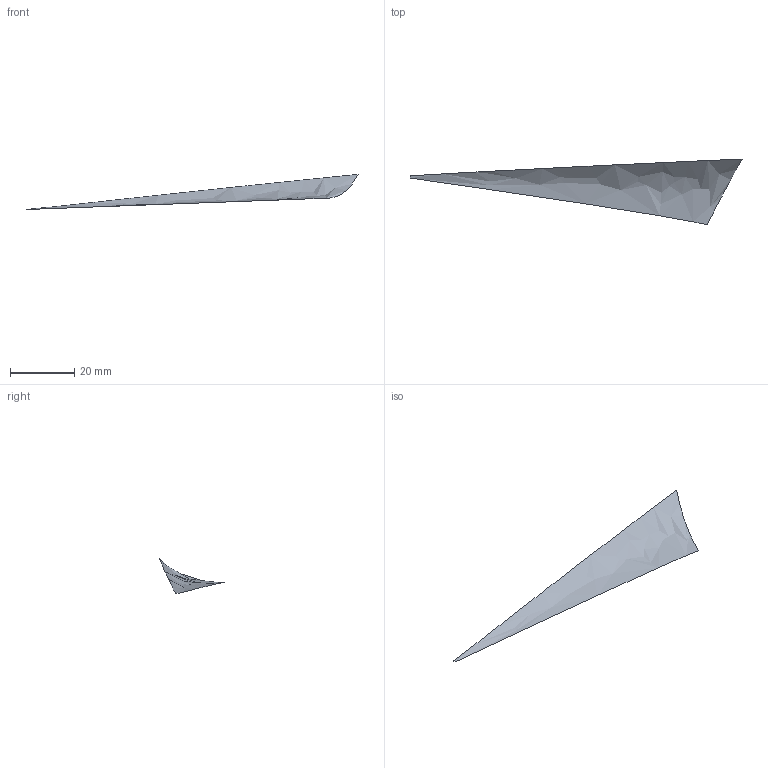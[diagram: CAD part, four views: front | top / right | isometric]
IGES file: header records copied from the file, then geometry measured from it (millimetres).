
Start section: START RECORD GO HERE
Global section: file name: t4.igs; native system: IBM CATIA IGES - CATIA SOLUTIONS V4RELEASE 1.9 REFRESH 01; preprocessor: CATIA SOLUTIONS V4RELEASE 1.9 REFRESH 01; author: cky; date: 990510.133752; units: millimetre
Bounding box: 103.61 x 20.52 x 10.93 mm (x, y, z)
Surface area: 1145.5 mm2 (no closed solid volume)
Topology: 0 solids, 0 shells, 1 faces, 20 edges, 20 vertices
Faces by surface type: bspline 1
